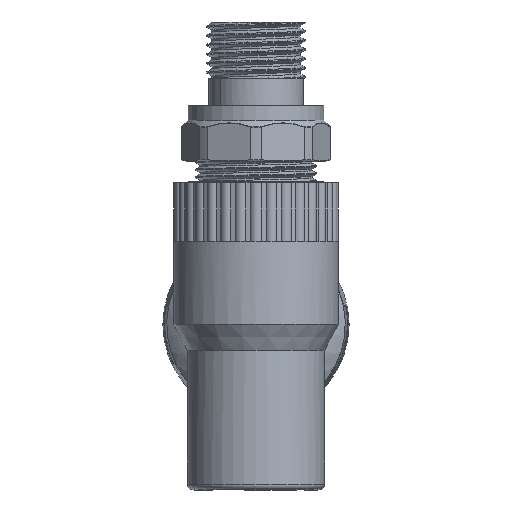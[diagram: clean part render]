
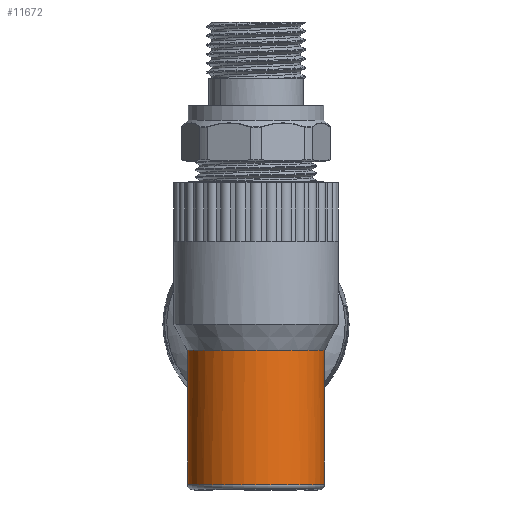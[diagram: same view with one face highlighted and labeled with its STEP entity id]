
A CAD part, front view. The second image highlights one B-rep face of the part: STEP entity #11672.
In plain terms, the highlighted cylindrical face has radius 14.575 mm (diameter 29.15 mm), a partial arc.
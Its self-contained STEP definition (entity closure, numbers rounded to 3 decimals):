
#899 = AXIS2_PLACEMENT_3D ( 'NONE', #68860, #83493, #33029 ) ;
#2726 = ORIENTED_EDGE ( 'NONE', *, *, #39678, .T. ) ;
#5947 = DIRECTION ( 'NONE',  ( 0., 0., -1. ) ) ;
#6206 = VERTEX_POINT ( 'NONE', #58093 ) ;
#6410 = EDGE_CURVE ( 'NONE', #24799, #45722, #55672, .T. ) ;
#10105 = ORIENTED_EDGE ( 'NONE', *, *, #24557, .F. ) ;
#11672 = ADVANCED_FACE ( 'NONE', ( #23952 ), #88124, .T. ) ;
#12659 = DIRECTION ( 'NONE',  ( 0., 0., -1. ) ) ;
#14963 = AXIS2_PLACEMENT_3D ( 'NONE', #21659, #76910, #71235 ) ;
#16627 = VECTOR ( 'NONE', #12659, 1000. ) ;
#17636 = DIRECTION ( 'NONE',  ( 0., 0., -1. ) ) ;
#17898 = ORIENTED_EDGE ( 'NONE', *, *, #67125, .T. ) ;
#17939 = VECTOR ( 'NONE', #80669, 1000. ) ;
#20823 = CARTESIAN_POINT ( 'NONE',  ( 14.541, -1., 24.35 ) ) ;
#21659 = CARTESIAN_POINT ( 'NONE',  ( 0., 0., -3.3 ) ) ;
#22082 = CIRCLE ( 'NONE', #899, 14.575 ) ;
#23952 = FACE_OUTER_BOUND ( 'NONE', #82774, .T. ) ;
#24557 = EDGE_CURVE ( 'NONE', #43364, #51210, #41933, .T. ) ;
#24799 = VERTEX_POINT ( 'NONE', #88568 ) ;
#25188 = CARTESIAN_POINT ( 'NONE',  ( -14.541, -1., 0. ) ) ;
#25194 = CARTESIAN_POINT ( 'NONE',  ( 14.575, 0., -4.3 ) ) ;
#29624 = CARTESIAN_POINT ( 'NONE',  ( -14.575, 0., -3.3 ) ) ;
#32768 = EDGE_CURVE ( 'NONE', #54107, #24799, #47856, .T. ) ;
#33029 = DIRECTION ( 'NONE',  ( -1., 0., 0. ) ) ;
#35126 = AXIS2_PLACEMENT_3D ( 'NONE', #38728, #67938, #59460 ) ;
#36252 = ORIENTED_EDGE ( 'NONE', *, *, #32768, .T. ) ;
#37661 = EDGE_CURVE ( 'NONE', #87829, #6206, #82262, .T. ) ;
#38442 = AXIS2_PLACEMENT_3D ( 'NONE', #86622, #5947, #92313 ) ;
#38728 = CARTESIAN_POINT ( 'NONE',  ( 0., 0., -3.3 ) ) ;
#39678 = EDGE_CURVE ( 'NONE', #73302, #51210, #22082, .T. ) ;
#41933 = LINE ( 'NONE', #83938, #16627 ) ;
#43364 = VERTEX_POINT ( 'NONE', #84426 ) ;
#43963 = EDGE_CURVE ( 'NONE', #87829, #54107, #88198, .T. ) ;
#45722 = VERTEX_POINT ( 'NONE', #29624 ) ;
#46303 = VECTOR ( 'NONE', #17636, 1000. ) ;
#47856 = LINE ( 'NONE', #25188, #46303 ) ;
#48089 = AXIS2_PLACEMENT_3D ( 'NONE', #87192, #59810, #60280 ) ;
#48280 = ORIENTED_EDGE ( 'NONE', *, *, #43963, .T. ) ;
#51210 = VERTEX_POINT ( 'NONE', #25194 ) ;
#54107 = VERTEX_POINT ( 'NONE', #58788 ) ;
#55672 = CIRCLE ( 'NONE', #14963, 14.575 ) ;
#58093 = CARTESIAN_POINT ( 'NONE',  ( 14.541, -1., -3.3 ) ) ;
#58788 = CARTESIAN_POINT ( 'NONE',  ( -14.541, -1., 24.35 ) ) ;
#59460 = DIRECTION ( 'NONE',  ( -1., 0., 0. ) ) ;
#59810 = DIRECTION ( 'NONE',  ( 0., 0., -1. ) ) ;
#59841 = ORIENTED_EDGE ( 'NONE', *, *, #6410, .T. ) ;
#60280 = DIRECTION ( 'NONE',  ( -1., 0., 0. ) ) ;
#66691 = DIRECTION ( 'NONE',  ( 0., 0., -1. ) ) ;
#67125 = EDGE_CURVE ( 'NONE', #45722, #73302, #88233, .T. ) ;
#67938 = DIRECTION ( 'NONE',  ( 0., 0., 1. ) ) ;
#68860 = CARTESIAN_POINT ( 'NONE',  ( 0., 0., -4.3 ) ) ;
#71235 = DIRECTION ( 'NONE',  ( 1., 0., 0. ) ) ;
#73302 = VERTEX_POINT ( 'NONE', #92864 ) ;
#74728 = CARTESIAN_POINT ( 'NONE',  ( 14.541, -1., 0. ) ) ;
#75847 = EDGE_CURVE ( 'NONE', #6206, #43364, #89302, .T. ) ;
#76910 = DIRECTION ( 'NONE',  ( 0., 0., -1. ) ) ;
#77531 = ORIENTED_EDGE ( 'NONE', *, *, #75847, .F. ) ;
#80669 = DIRECTION ( 'NONE',  ( 0., 0., -1. ) ) ;
#82262 = LINE ( 'NONE', #74728, #91118 ) ;
#82774 = EDGE_LOOP ( 'NONE', ( #10105, #77531, #91077, #48280, #36252, #59841, #17898, #2726 ) ) ;
#83493 = DIRECTION ( 'NONE',  ( 0., 0., 1. ) ) ;
#83938 = CARTESIAN_POINT ( 'NONE',  ( 14.575, 0., 0. ) ) ;
#84426 = CARTESIAN_POINT ( 'NONE',  ( 14.575, 0., -3.3 ) ) ;
#86622 = CARTESIAN_POINT ( 'NONE',  ( 0., 0., 24.35 ) ) ;
#87192 = CARTESIAN_POINT ( 'NONE',  ( 0., 0., 0. ) ) ;
#87301 = CARTESIAN_POINT ( 'NONE',  ( -14.575, 0., 0. ) ) ;
#87829 = VERTEX_POINT ( 'NONE', #20823 ) ;
#88124 = CYLINDRICAL_SURFACE ( 'NONE', #48089, 14.575 ) ;
#88198 = CIRCLE ( 'NONE', #38442, 14.575 ) ;
#88233 = LINE ( 'NONE', #87301, #17939 ) ;
#88568 = CARTESIAN_POINT ( 'NONE',  ( -14.541, -1., -3.3 ) ) ;
#89302 = CIRCLE ( 'NONE', #35126, 14.575 ) ;
#91077 = ORIENTED_EDGE ( 'NONE', *, *, #37661, .F. ) ;
#91118 = VECTOR ( 'NONE', #66691, 1000. ) ;
#92313 = DIRECTION ( 'NONE',  ( -1., 0., 0. ) ) ;
#92864 = CARTESIAN_POINT ( 'NONE',  ( -14.575, 0., -4.3 ) ) ;
